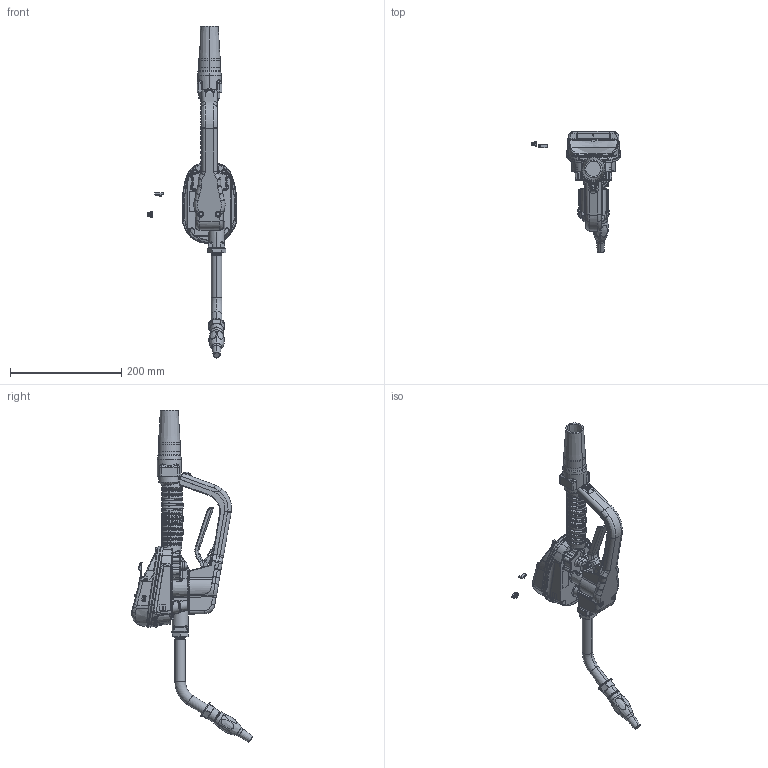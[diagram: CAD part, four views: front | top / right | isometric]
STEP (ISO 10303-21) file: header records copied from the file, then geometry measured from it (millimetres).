
FILE_DESCRIPTION((''),'2;1');
FILE_NAME('26C384-EN-F_PRT','2020-05-18T18:11:12',('qusrh3'),(''),'CREO PARAMETRIC BY PTC INC, 2019030','CREO PARAMETRIC BY PTC INC, 2019030','');
FILE_SCHEMA(('CONFIG_CONTROL_DESIGN'));
Products named in the file (1): 26C384-EN-F_PRT
Bounding box: 159.82 x 218.42 x 597.19 mm (x, y, z)
Surface area: 260671.8 mm2 (no closed solid volume)
Topology: 0 solids, 101 shells, 2620 faces, 7482 edges, 4736 vertices
Faces by surface type: bspline 1244, cylinder 575, plane 542, cone 110, torus 95, sphere 40, extrusion 14
Entity records: 153550 total; most frequent: CARTESIAN_POINT 96496, ORIENTED_EDGE 12901, DIRECTION 9174, EDGE_CURVE 7478, VERTEX_POINT 4736, AXIS2_PLACEMENT_3D 3397, B_SPLINE_CURVE_WITH_KNOTS 3091, EDGE_LOOP 2620
